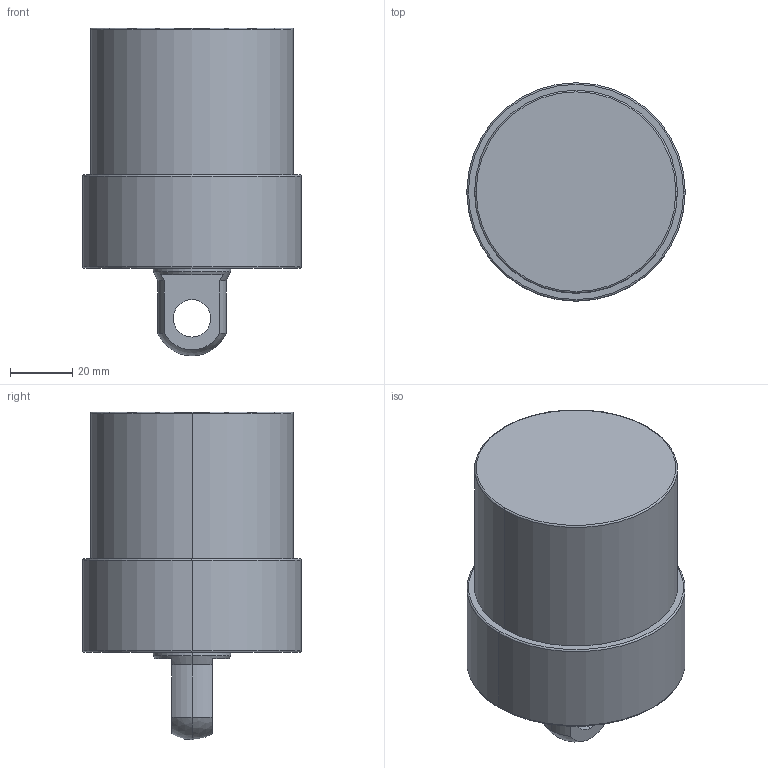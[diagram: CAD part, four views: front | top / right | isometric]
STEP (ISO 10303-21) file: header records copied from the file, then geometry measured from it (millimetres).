
FILE_DESCRIPTION (( 'STEP AP203' ), '1' );
FILE_NAME ('CLLU-065GP-030.STEP', '2020-01-06T09:19:21', ( '' ), ( '' ), 'SwSTEP 2.0', 'SolidWorks 2015', '' );
FILE_SCHEMA (( 'CONFIG_CONTROL_DESIGN' ));
Length unit declared in the file: millimetre
Products named in the file (1): CLLU-065GP-030
Bounding box: 70 x 70 x 105 mm (x, y, z)
Volume: 275602.1 mm3; surface area: 26692.7 mm2
Topology: 1 solids, 1 shells, 58 faces, 131 edges, 75 vertices
Faces by surface type: cylinder 23, cone 18, plane 9, torus 6, sphere 2
Entity records: 1658 total; most frequent: DIRECTION 311, CARTESIAN_POINT 269, ORIENTED_EDGE 246, AXIS2_PLACEMENT_3D 133, EDGE_CURVE 123, VERTEX_POINT 75, CIRCLE 74, EDGE_LOOP 68
